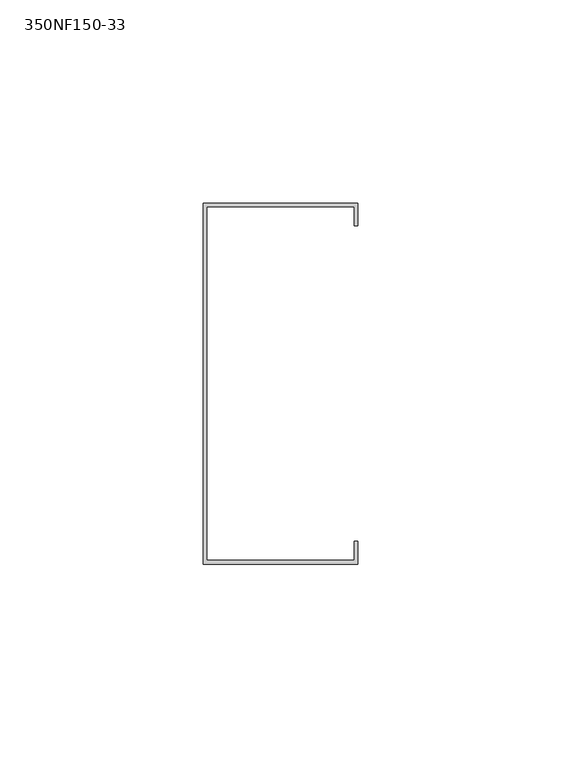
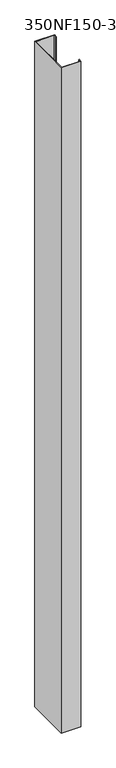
"""IFC4 building model written with IfcOpenShell, lengths in millimetres: column geometry, BIMSF-SSMA-S-Column : 350NF150-33."""

from ifc_helpers import new_model, si_unit, frame, origin, place, context, project, spatial, polyline, outline, extrude, source, transform, mapped, element, save


def column_350nf150_33_f4fa3d8b(model_context):
    return source(origin(), model_context, "Body", "SweptSolid", [
        extrude(outline(polyline([(-11.9977877, -55.1871249), (-11.9977877, 33.7128751), (26.1022123, 33.7128751), (26.1022123, 28.0553593), (25.2198965, 28.0553593), (25.2198965, 32.8305593), (-11.115472, 32.8305593), (-11.115472, -54.3048092), (25.2198965, -54.3048092), (25.2198965, -49.5296092), (26.1022123, -49.5296092), (26.1022123, -55.1871249), (-11.9977877, -55.1871249)])), frame((0.0, 0.0, 3061.5929687), z_axis=(0.0, 0.0, 1.0), x_axis=(1.0, 0.0, 0.0)), (0.0, 0.0, 1.0), 1365.9409281),
    ])


if __name__ == "__main__":
    model = new_model("IFC4")
    model_context = context("Model", 3, world=origin())
    ifc_project = project(units=[si_unit("LENGTHUNIT", "METRE", prefix="MILLI")], contexts=[model_context])
    site = spatial("IfcSite", under=ifc_project)
    building = spatial("IfcBuilding", under=site)
    placement = place(None, origin())
    column_350nf150_33_shape = column_350nf150_33_f4fa3d8b(model_context)
    element("IfcColumn", 1, ObjectType="BIMSF-SSMA-S-Column : 350NF150-33", at=placement, inside=building, context=model_context, shape_type="MappedRepresentation", body=[
        mapped(column_350nf150_33_shape, transform((0.0, 0.0, 0.0), x_axis=(1.0, 0.0, 0.0), y_axis=(0.0, 1.0, 0.0), z_axis=(0.0, 0.0, 1.0))),
    ])
    save(model, "model.ifc")
